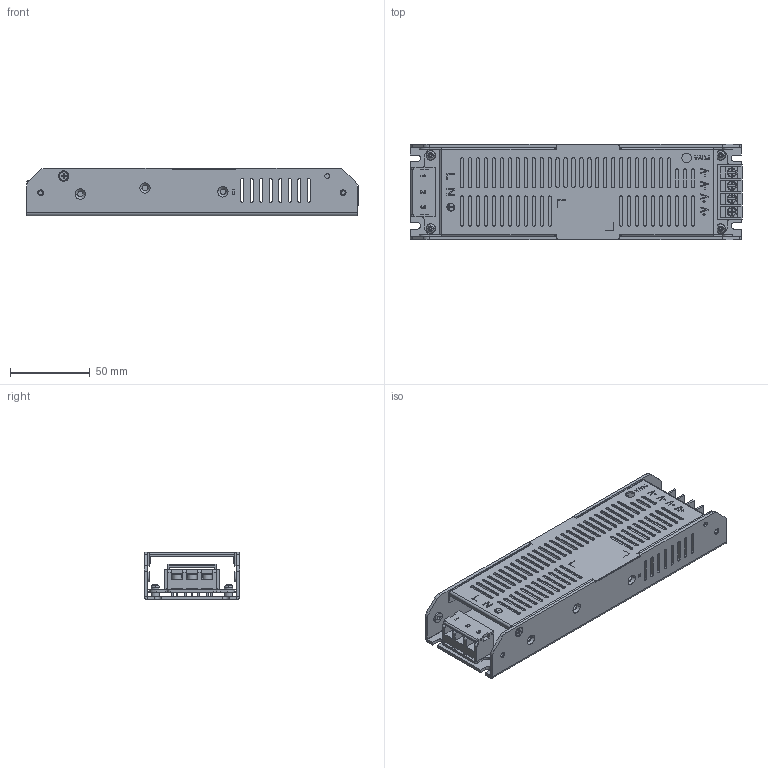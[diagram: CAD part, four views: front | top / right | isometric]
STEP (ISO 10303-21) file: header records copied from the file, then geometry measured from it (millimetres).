
FILE_DESCRIPTION((''),'2;1');
FILE_NAME('VAT-UP200S-5-60L-AII_ASM','2022-08-23T09:38:04',('pd070'),(''),'CREO PARAMETRIC BY PTC INC, 2017260','CREO PARAMETRIC BY PTC INC, 2017260','');
FILE_SCHEMA(('CONFIG_CONTROL_DESIGN','SHAPE_APPEARANCE_LAYERS_GROUPS'));
Length unit declared in the file: millimetre
Products named in the file (1): VAT-UP200S-5-60L-AII_ASM
Bounding box: 208.5 x 60 x 30 mm (x, y, z)
Surface area: 99052.3 mm2 (no closed solid volume)
Topology: 0 solids, 62 shells, 947 faces, 3328 edges, 2420 vertices
Faces by surface type: plane 551, cylinder 342, cone 24, torus 14, sphere 8, bspline 8
Entity records: 43130 total; most frequent: CARTESIAN_POINT 7443, DIRECTION 6048, ORIENTED_EDGE 5641, EDGE_CURVE 3328, VERTEX_POINT 2420, VECTOR 2316, LINE 2316, AXIS2_PLACEMENT_3D 1866
